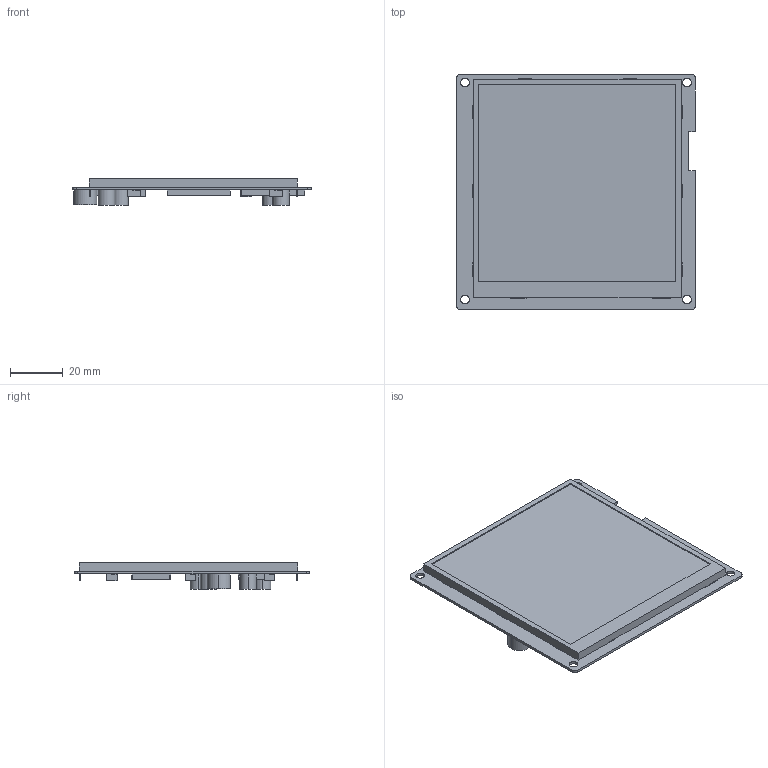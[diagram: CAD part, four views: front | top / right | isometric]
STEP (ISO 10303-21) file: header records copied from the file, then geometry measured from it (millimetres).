
FILE_DESCRIPTION((''),'2;1');
FILE_NAME('DMG72720C041-03WTC','2020-06-30T',('Administrator'),(''),'PRO/ENGINEER BY PARAMETRIC TECHNOLOGY CORPORATION, 2011310','PRO/ENGINEER BY PARAMETRIC TECHNOLOGY CORPORATION, 2011310','');
FILE_SCHEMA(('CONFIG_CONTROL_DESIGN','SHAPE_APPEARANCE_LAYERS_GROUPS'));
Length unit declared in the file: millimetre
Products named in the file (1): DMG72720C041-03WTC
Bounding box: 90.7 x 89.4 x 10.05 mm (x, y, z)
Surface area: 40418.5 mm2 (no closed solid volume)
Topology: 0 solids, 4 shells, 195 faces, 528 edges, 352 vertices
Faces by surface type: plane 167, cylinder 28
Entity records: 6211 total; most frequent: CARTESIAN_POINT 1075, ORIENTED_EDGE 1056, DIRECTION 974, EDGE_CURVE 528, VECTOR 472, LINE 472, VERTEX_POINT 352, AXIS2_PLACEMENT_3D 251
